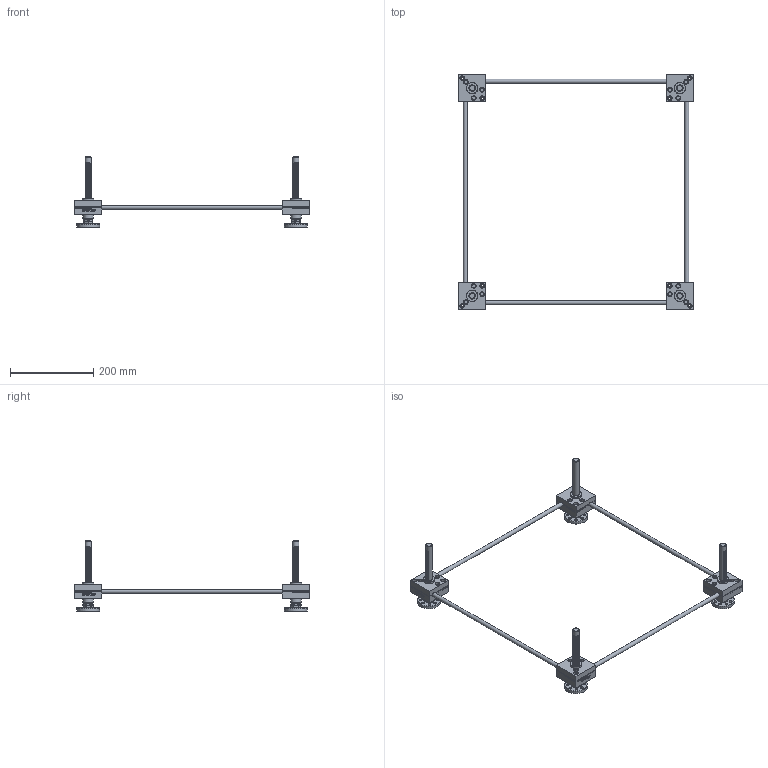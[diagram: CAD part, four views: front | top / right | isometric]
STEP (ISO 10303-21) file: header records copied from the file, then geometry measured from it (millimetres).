
FILE_DESCRIPTION(('STEP AP203'),'1');
FILE_NAME('SP100FU-500x500-100ST.stp','2022-06-15T01:25:22',(' '),(' '),'Spatial InterOp 3D',' ',' ');
FILE_SCHEMA(('CONFIG_CONTROL_DESIGN'));
Length unit declared in the file: millimetre
Products named in the file (67): SP100FU-500x500-100ST; ASSEM1; Flange.1-Part; Flange.1; Joint.1; Nut.1; Flange.2-Part; Flange.2; Joint.2; Nut.2; Flange.3-Part; Flange.3; Joint.3; Nut.3; Flange.4-Part; Flange.4; Joint.4; Nut.4; Body.1-Part; Bolt.12; Gear Box.1(Upper); Gear Box.1(Lower); RJ05-4SCJ-610X600-100ST_CAP; LABEL-B.1; ___; __; 파트18; Body.2-Part; Gear Box.2(Upper); Gear Box.2(Lower); Body.3-Part; Gear Box.3(Upper); Gear Box.3(Lower); Body.4-Part; Gear Box.4(Upper); Gear Box.4(Lower); Shaft.1; Shaft.2
Assembly tree (68 placements, depth 6):
  SP100FU-500x500-100ST
    ASSEM1
    (unnamed)
    (unnamed)
    (unnamed)
    Flange.1-Part
      Flange.1
      Joint.1
      Nut.1
    Flange.2-Part
      Flange.2
      Joint.2
      Nut.2
    Flange.3-Part
      Flange.3
      Joint.3
      Nut.3
    Flange.4-Part
      Flange.4
      Joint.4
      Nut.4
    Body.1-Part
      Bolt.12
      Bolt.12
      Bolt.12
      Gear Box.1(Upper)
      Gear Box.1(Lower)
      __
        ___
          RJ05-4SCJ-610X600-100ST_CAP
            LABEL-B.1
        파트18
    Body.2-Part
      Bolt.12
      Bolt.12
      Bolt.12
      Gear Box.2(Upper)
      Gear Box.2(Lower)
      __
        ___
          RJ05-4SCJ-610X600-100ST_CAP
            LABEL-B.1
        파트18
    Body.3-Part
      Bolt.12
      Bolt.12
      Bolt.12
      Gear Box.3(Upper)
      Gear Box.3(Lower)
      __
        ___
          RJ05-4SCJ-610X600-100ST_CAP
            LABEL-B.1
        파트18
    Body.4-Part
      Bolt.12
      Bolt.12
      Bolt.12
      Gear Box.4(Upper)
      Gear Box.4(Lower)
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Bounding box: 565.32 x 565.32 x 170 mm (x, y, z)
Volume: 679637.8 mm3; surface area: 308464.5 mm2
Topology: 68 solids, 68 shells, 8124 faces, 23112 edges, 15380 vertices
Faces by surface type: plane 7624, cylinder 324, cone 156, torus 20
Full cylindrical faces by diameter (mm): 5 x24, 6 x16, 6.4 x28, 7 x16, 10 x4, 11 x32, 13.8 x4, 15 x12, 15.4 x8, 17 x12, 24.5 x4, 25 x8, 28 x8, 29 x4, 55 x4
Entity records: 259706 total; most frequent: CARTESIAN_POINT 47159, ORIENTED_EDGE 44696, DIRECTION 40110, EDGE_CURVE 22348, LINE 20576, VECTOR 20576, VERTEX_POINT 15044, AXIS2_PLACEMENT_3D 9767
